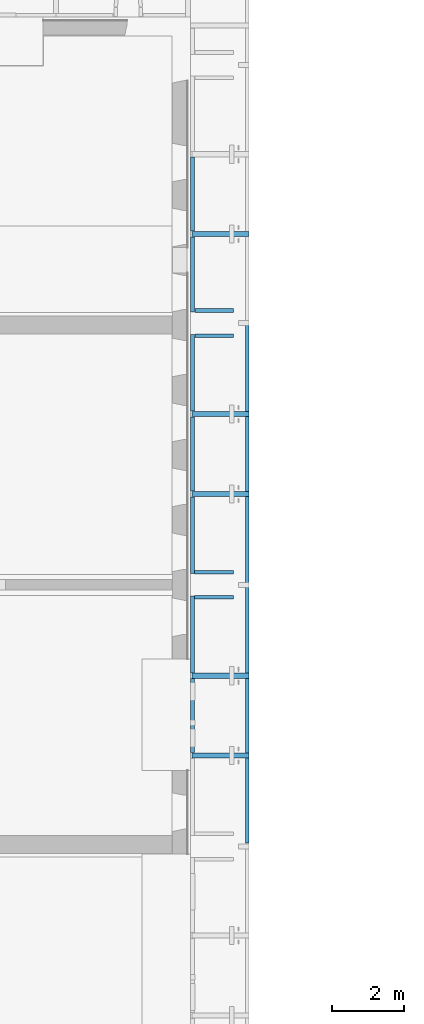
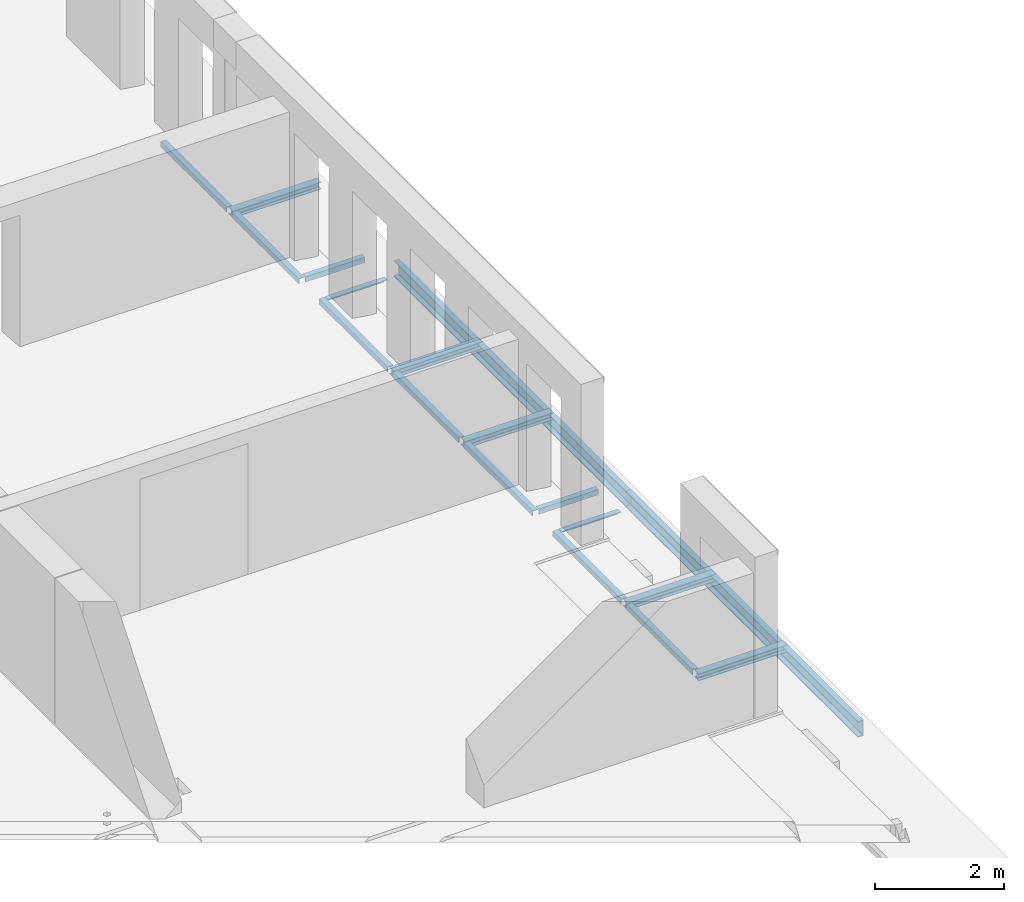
# One storey, part 6 of 27: 18 beams.
"""IFC2X3 building model written with IfcOpenShell, lengths in millimetres."""

import ifcopenshell
import ifcopenshell.guid

model = None  # the IFC model being written
_history = None  # IfcOwnerHistory: only IFC2X3 demands one
_inside = {}  # id of a spatial element -> (the spatial element, [elements in it])
_under = {}  # id of a project, library or spatial element -> (it, [spatial elements below it])
_declared = {}  # id of a project -> (the project, [libraries it declares])
_typed = {}  # id of a type object -> (the type object, [elements of that type])
_made_of = {}  # id of a material, layer set ... -> (it, [elements and type objects made of it])


def new_model(schema):
    """Start an empty IFC model of exactly this schema.

    Asked for "IFC4X3", IfcOpenShell would pick the latest addendum, in which some entities
    have other attributes; the version numbers below select the first issue.
    IFC2X3 requires an IfcOwnerHistory on every rooted entity: one is made here for all.
    """
    global model, _history
    if schema == "IFC4X3":
        model = ifcopenshell.file(schema_version=(4, 3, 0, 0))
    else:
        model = ifcopenshell.file(schema=schema)
    _inside.clear()
    _under.clear()
    _declared.clear()
    _typed.clear()
    _made_of.clear()
    _history = None
    if model.schema == "IFC2X3":
        org = make("IfcOrganization", Name="unknown")
        user = make(
            "IfcPersonAndOrganization",
            ThePerson=make("IfcPerson", FamilyName="unknown"),
            TheOrganization=org,
        )
        app = make(
            "IfcApplication",
            ApplicationDeveloper=org,
            Version="unknown",
            ApplicationFullName="unknown",
            ApplicationIdentifier="unknown",
        )
        _history = make(
            "IfcOwnerHistory",
            OwningUser=user,
            OwningApplication=app,
            ChangeAction="ADDED",
            CreationDate=0,
        )
    return model


def make(cls, **values):
    """One entity of the class cls with the attributes given. An attribute that is None is left unset."""
    return model.create_entity(
        cls, **{name: value for name, value in values.items() if value is not None}
    )


def entity(cls, *values):
    """Any entity or typed value of the class cls, its attributes in the order of the schema. None: left unset."""
    e = model.create_entity(cls)
    for i, value in enumerate(values):
        if value is not None:
            e[i] = value
    return e


def rooted(cls, **values):
    """An entity with a GlobalId (a new one), such as an element, a storey or a relation."""
    return make(cls, GlobalId=ifcopenshell.guid.new(), OwnerHistory=_history, **values)


def si_unit(unit_type, name, prefix=None):
    """IfcSIUnit, for example si_unit("LENGTHUNIT", "METRE", prefix="MILLI")."""
    return make("IfcSIUnit", UnitType=unit_type, Prefix=prefix, Name=name)


def converted_unit(unit_type, name, factor, base, dimensions=None, offset=None):
    """IfcConversionBasedUnit, such as the inch: factor (a typed value) times the base unit."""
    return make(
        "IfcConversionBasedUnit"
        if offset is None
        else "IfcConversionBasedUnitWithOffset",
        ConversionOffset=offset,
        Dimensions=None
        if dimensions is None
        else entity("IfcDimensionalExponents", *dimensions),
        UnitType=unit_type,
        Name=name,
        ConversionFactor=make(
            "IfcMeasureWithUnit", ValueComponent=factor, UnitComponent=base
        ),
    )


def derived_unit(unit_type, elements):
    """IfcDerivedUnit: a product of units, each with its exponent."""
    return make(
        "IfcDerivedUnit",
        Elements=[
            make("IfcDerivedUnitElement", Unit=unit, Exponent=power)
            for unit, power in elements
        ],
        UnitType=unit_type,
    )


def assignment(units):
    """IfcUnitAssignment: the units of a project."""
    return None if units is None else make("IfcUnitAssignment", Units=units)


def point(xyz):
    """IfcCartesianPoint."""
    return None if xyz is None else make("IfcCartesianPoint", Coordinates=xyz)


def direction(xyz):
    """IfcDirection."""
    return None if xyz is None else make("IfcDirection", DirectionRatios=xyz)


def frame(location, z_axis=None, x_axis=None):
    """IfcAxis2Placement3D, a coordinate frame: its origin and axes. An axis left out is left unset."""
    return make(
        "IfcAxis2Placement3D",
        Location=point(location),
        Axis=direction(z_axis),
        RefDirection=direction(x_axis),
    )


def frame_2d(location, x_axis=None):
    """IfcAxis2Placement2D, a coordinate frame in the plane: its origin and x axis."""
    return make(
        "IfcAxis2Placement2D", Location=point(location), RefDirection=direction(x_axis)
    )


def origin():
    """The frame at (0, 0, 0) with its axes left unset."""
    return frame((0.0, 0.0, 0.0))


def place(relative_to, where):
    """IfcLocalPlacement: puts the frame where relative to a parent placement (None: the world)."""
    return make(
        "IfcLocalPlacement", PlacementRelTo=relative_to, RelativePlacement=where
    )


def context(
    kind, dimensions, precision=None, world=None, true_north=None, identifier=None
):
    """IfcGeometricRepresentationContext, for example the 3D "Model" context."""
    return make(
        "IfcGeometricRepresentationContext",
        ContextIdentifier=identifier,
        ContextType=kind,
        CoordinateSpaceDimension=dimensions,
        Precision=precision,
        WorldCoordinateSystem=world,
        TrueNorth=true_north,
    )


def subcontext(parent, identifier, kind, view, scale=None):
    """IfcGeometricRepresentationSubContext, for example "Body" below "Model"."""
    return make(
        "IfcGeometricRepresentationSubContext",
        ContextIdentifier=identifier,
        ContextType=kind,
        ParentContext=parent,
        TargetScale=scale,
        TargetView=view,
    )


def project(units=None, contexts=None):
    """IfcProject with its units and contexts."""
    return rooted(
        "IfcProject",
        Name="project",
        RepresentationContexts=contexts,
        UnitsInContext=assignment(units),
    )


def spatial(cls, under=None, at=None, **own):
    """A site, building, storey or space (cls), placed at a placement, below another one or the project."""
    s = rooted(cls, ObjectPlacement=at, **own)
    if under is not None:
        _under.setdefault(under.id(), (under, []))[1].append(s)
    return s


def polyline(points):
    """IfcPolyline through the points."""
    return make("IfcPolyline", Points=[point(p) for p in points])


def circle_curve(where, radius):
    """IfcCircle in the frame where."""
    return make("IfcCircle", Position=where, Radius=radius)


def parameter(value):
    """IfcParameterValue: where a trimmed curve begins or ends, as a parameter of its basis curve."""
    return model.create_entity("IfcParameterValue", value)


def trimmed(basis, trim1, trim2, sense, master):
    """IfcTrimmedCurve: the piece of a basis curve between two trims."""
    return make(
        "IfcTrimmedCurve",
        BasisCurve=basis,
        Trim1=trim1,
        Trim2=trim2,
        SenseAgreement=sense,
        MasterRepresentation=master,
    )


def segment(curve, same_sense, transition):
    """IfcCompositeCurveSegment."""
    return make(
        "IfcCompositeCurveSegment",
        Transition=transition,
        SameSense=same_sense,
        ParentCurve=curve,
    )


def composite_curve(segments, self_intersect=None):
    """IfcCompositeCurve: segments joined end to end."""
    return make("IfcCompositeCurve", Segments=segments, SelfIntersect=self_intersect)


def profile(cls, at=None, kind="AREA", **sizes):
    """A parametric profile (cls). Its sizes go by their IFC names, for example OverallWidth=200.0."""
    return make(cls, ProfileType=kind, Position=at, **sizes)


def i_section(**sizes):
    """IfcIShapeProfileDef."""
    return profile("IfcIShapeProfileDef", **sizes)


def outline(outer, holes=None, kind="AREA"):
    """IfcArbitraryClosedProfileDef: a profile drawn as a closed curve; with holes, ...WithVoids."""
    if holes is None:
        return make("IfcArbitraryClosedProfileDef", ProfileType=kind, OuterCurve=outer)
    return make(
        "IfcArbitraryProfileDefWithVoids",
        ProfileType=kind,
        OuterCurve=outer,
        InnerCurves=holes,
    )


def extrude(swept, where, along, depth):
    """IfcExtrudedAreaSolid: the profile swept, set in the frame where, extruded along a direction by depth."""
    return make(
        "IfcExtrudedAreaSolid",
        SweptArea=swept,
        Position=where,
        ExtrudedDirection=direction(along),
        Depth=depth,
    )


def shape(context_of_items, identifier, shape_type, items):
    """IfcShapeRepresentation: the items that make up one representation, for example the "Body"."""
    return make(
        "IfcShapeRepresentation",
        ContextOfItems=context_of_items,
        RepresentationIdentifier=identifier,
        RepresentationType=shape_type,
        Items=items,
    )


def material(Name=None, Category=None):
    """IfcMaterial."""
    return make("IfcMaterial", Name=Name, Category=Category)


def made_of(thing, what):
    """Note that an element or type object is made of a material, layer set ...; save() writes the relation."""
    if what is not None:
        _made_of.setdefault(what.id(), (what, []))[1].append(thing)
    return thing


def type_object(cls, material=None, **own):
    """A type object (cls), such as IfcWallType, which elements share."""
    return made_of(rooted(cls, **own), material)


def element(
    cls,
    number,
    at=None,
    inside=None,
    cuts=None,
    type_object=None,
    material=None,
    context=None,
    identifier="Body",
    shape_type=None,
    held_by="IfcProductDefinitionShape",
    body=None,
    shapes=None,
    **own,
):
    """One element of the class cls, such as IfcWall. Its Tag is "e" and its number.

    at: its placement. inside: the storey or other place that contains it. cuts: it is an
    opening in that element (IfcRelVoidsElement). A single representation is given by context,
    identifier, shape_type and body (its items); several are given by shapes. held_by: the class
    of the entity that holds the representations. save() writes the other relations.
    """
    e = rooted(cls, Tag="e%d" % number, ObjectPlacement=at, **own)
    if body is not None:
        shapes = [shape(context, identifier, shape_type, body)]
    if shapes is not None:
        e.Representation = make(held_by, Representations=shapes)
    if inside is not None:
        _inside.setdefault(inside.id(), (inside, []))[1].append(e)
    if cuts is not None:
        rooted(
            "IfcRelVoidsElement", RelatingBuildingElement=cuts, RelatedOpeningElement=e
        )
    if type_object is not None:
        _typed.setdefault(type_object.id(), (type_object, []))[1].append(e)
    return made_of(e, material)


def aggregate(whole, parts):
    """IfcRelAggregates: a whole, such as a stair, and the parts it consists of."""
    return rooted("IfcRelAggregates", RelatingObject=whole, RelatedObjects=parts)


def save(model, path):
    """Write the relations noted so far, then the file.

    IfcRelAggregates (storeys below a building ...), IfcRelContainedInSpatialStructure (elements
    in a storey), IfcRelDefinesByType, IfcRelAssociatesMaterial and IfcRelDeclares: one each for
    every whole, place, type object, material and project.
    """
    for whole, parts in _under.values():
        aggregate(whole, parts)
    for where, things in _inside.values():
        rooted(
            "IfcRelContainedInSpatialStructure",
            RelatedElements=things,
            RelatingStructure=where,
        )
    for kind, things in _typed.values():
        rooted("IfcRelDefinesByType", RelatedObjects=things, RelatingType=kind)
    for what, things in _made_of.values():
        rooted("IfcRelAssociatesMaterial", RelatedObjects=things, RelatingMaterial=what)
    for by, libraries in _declared.values():
        rooted("IfcRelDeclares", RelatingContext=by, RelatedDefinitions=libraries)
    model.write(path)


model = new_model("IFC2X3")

# Units and contexts
model_context = context("Model", 3, precision=0.01, world=origin(), true_north=direction((6.12303176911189e-17, 1.0)))
body_context = subcontext(model_context, "Body", "Model", "MODEL_VIEW")
ifc_project = project(units=[si_unit("LENGTHUNIT", "METRE", prefix="MILLI"), si_unit("AREAUNIT", "SQUARE_METRE"), si_unit("VOLUMEUNIT", "CUBIC_METRE"), converted_unit("PLANEANGLEUNIT", "DEGREE", entity("IfcRatioMeasure", 0.0174532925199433), si_unit("PLANEANGLEUNIT", "RADIAN"), dimensions=[0, 0, 0, 0, 0, 0, 0]), si_unit("MASSUNIT", "GRAM", prefix="KILO"), derived_unit("MASSDENSITYUNIT", [(si_unit("MASSUNIT", "GRAM", prefix="KILO"), 1), (si_unit("LENGTHUNIT", "METRE"), -3)]), si_unit("TIMEUNIT", "SECOND"), si_unit("FREQUENCYUNIT", "HERTZ"), si_unit("THERMODYNAMICTEMPERATUREUNIT", "DEGREE_CELSIUS"), derived_unit("THERMALTRANSMITTANCEUNIT", [(si_unit("MASSUNIT", "GRAM", prefix="KILO"), 1), (si_unit("THERMODYNAMICTEMPERATUREUNIT", "KELVIN"), -1), (si_unit("TIMEUNIT", "SECOND"), -3)]), derived_unit("VOLUMETRICFLOWRATEUNIT", [(si_unit("LENGTHUNIT", "METRE"), 3), (si_unit("TIMEUNIT", "SECOND"), -1)]), si_unit("ELECTRICCURRENTUNIT", "AMPERE"), si_unit("ELECTRICVOLTAGEUNIT", "VOLT"), si_unit("POWERUNIT", "WATT"), si_unit("FORCEUNIT", "NEWTON", prefix="KILO"), si_unit("ILLUMINANCEUNIT", "LUX"), si_unit("LUMINOUSFLUXUNIT", "LUMEN"), si_unit("LUMINOUSINTENSITYUNIT", "CANDELA"), derived_unit("USERDEFINED", [(si_unit("MASSUNIT", "GRAM", prefix="KILO"), -1), (si_unit("LENGTHUNIT", "METRE"), -2), (si_unit("TIMEUNIT", "SECOND"), 3), (si_unit("LUMINOUSFLUXUNIT", "LUMEN"), 1)]), derived_unit("LINEARVELOCITYUNIT", [(si_unit("LENGTHUNIT", "METRE"), 1), (si_unit("TIMEUNIT", "SECOND"), -1)]), si_unit("PRESSUREUNIT", "PASCAL"), derived_unit("USERDEFINED", [(si_unit("LENGTHUNIT", "METRE"), -2), (si_unit("MASSUNIT", "GRAM", prefix="KILO"), 1), (si_unit("TIMEUNIT", "SECOND"), -2)])], contexts=[model_context])

# Site, building, storey
site_placement = place(None, origin())
site = spatial("IfcSite", under=ifc_project, at=site_placement, Name="Default", CompositionType="ELEMENT")
building_placement = place(site_placement, origin())
building = spatial("IfcBuilding", under=site, at=building_placement, Name="niet gebruiken", CompositionType="ELEMENT")
storey_placement = place(building_placement, frame((0.0, 0.0, 18000.0)))
storey = spatial("IfcBuildingStorey", under=building, at=storey_placement, Name="05 vijfde verdieping", CompositionType="ELEMENT", Elevation=18000.0)

# Beams
ifc_material = material(Name="NLRS_h2_staal")
beam_type_1 = type_object("IfcBeamType", Name="NLRS_28.11_SF_WPB_stalen ligger HEA_gen:ligger HEA 140", PredefinedType="BEAM")
beam_1_placement = place(storey_placement, frame((157510.0, 22230.0, -1015.0)))
element("IfcBeam", 1, at=beam_1_placement, inside=storey, type_object=beam_type_1, material=ifc_material, Name="NLRS_28.11_SF_WPB_stalen ligger HEA_gen:ligger HEA 140", ObjectType="NLRS_28.11_SF_WPB_stalen ligger HEA_gen:ligger HEA 140", context=body_context, shape_type="SweptSolid", body=[
    extrude(i_section(OverallWidth=140.000000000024, OverallDepth=133.000000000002, WebThickness=5.49999999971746, FlangeThickness=8.50000000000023, FilletRadius=12.0000000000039, at=frame_2d((-3.25428572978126e-12, 0.0), x_axis=(0.0, 1.0))), frame((0.0, 0.0, -66.5000000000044), z_axis=(1.0, 0.0, 0.0), x_axis=(0.0, 0.0, -1.0)), (0.0, 0.0, 1.0), 1579.73984361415),
])
beam_2_placement = place(storey_placement, frame((157510.0, 20020.0, -1015.0)))
element("IfcBeam", 2, at=beam_2_placement, inside=storey, type_object=beam_type_1, material=ifc_material, Name="NLRS_28.11_SF_WPB_stalen ligger HEA_gen:ligger HEA 140", ObjectType="NLRS_28.11_SF_WPB_stalen ligger HEA_gen:ligger HEA 140", context=body_context, shape_type="SweptSolid", body=[
    extrude(i_section(OverallWidth=140.000000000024, OverallDepth=133.000000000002, WebThickness=5.49999999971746, FlangeThickness=8.50000000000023, FilletRadius=12.0000000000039, at=frame_2d((-3.25428572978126e-12, 0.0), x_axis=(0.0, 1.0))), frame((0.0, 0.0, -66.5000000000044), z_axis=(1.0, 0.0, 0.0), x_axis=(0.0, 0.0, -1.0)), (0.0, 0.0, 1.0), 1579.99999999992),
])
beam_3_placement = place(storey_placement, frame((157510.0, 14980.0, -1015.0)))
element("IfcBeam", 3, at=beam_3_placement, inside=storey, type_object=beam_type_1, material=ifc_material, Name="NLRS_28.11_SF_WPB_stalen ligger HEA_gen:ligger HEA 140", ObjectType="NLRS_28.11_SF_WPB_stalen ligger HEA_gen:ligger HEA 140", context=body_context, shape_type="SweptSolid", body=[
    extrude(i_section(OverallWidth=140.000000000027, OverallDepth=133.000000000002, WebThickness=5.49999999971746, FlangeThickness=8.50000000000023, FilletRadius=11.9999999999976, at=frame_2d((-3.25428572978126e-12, 0.0), x_axis=(0.0, 1.0))), frame((0.0, 0.0, -66.5000000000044), z_axis=(1.0, 0.0, 0.0), x_axis=(0.0, 0.0, -1.0)), (0.0, 0.0, 1.0), 1579.73984361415),
])
beam_4_placement = place(storey_placement, frame((157510.0, 12770.0, -1015.0)))
element("IfcBeam", 4, at=beam_4_placement, inside=storey, type_object=beam_type_1, material=ifc_material, Name="NLRS_28.11_SF_WPB_stalen ligger HEA_gen:ligger HEA 140", ObjectType="NLRS_28.11_SF_WPB_stalen ligger HEA_gen:ligger HEA 140", context=body_context, shape_type="SweptSolid", body=[
    extrude(i_section(OverallWidth=140.000000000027, OverallDepth=133.000000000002, WebThickness=5.49999999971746, FlangeThickness=8.50000000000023, FilletRadius=11.9999999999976, at=frame_2d((-3.25428572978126e-12, 0.0), x_axis=(0.0, 1.0))), frame((0.0, 0.0, -66.5000000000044), z_axis=(1.0, 0.0, 0.0), x_axis=(0.0, 0.0, -1.0)), (0.0, 0.0, 1.0), 1579.99999999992),
])
beam_5_placement = place(storey_placement, frame((157510.0, 27220.0, -1015.0)))
element("IfcBeam", 5, at=beam_5_placement, inside=storey, type_object=beam_type_1, material=ifc_material, Name="NLRS_28.11_SF_WPB_stalen ligger HEA_gen:ligger HEA 140", ObjectType="NLRS_28.11_SF_WPB_stalen ligger HEA_gen:ligger HEA 140", context=body_context, shape_type="SweptSolid", body=[
    extrude(i_section(OverallWidth=140.000000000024, OverallDepth=133.000000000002, WebThickness=5.49999999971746, FlangeThickness=8.50000000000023, FilletRadius=12.0000000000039, at=frame_2d((-3.25428572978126e-12, 0.0), x_axis=(0.0, 1.0))), frame((0.0, 0.0, -66.5000000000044), z_axis=(1.0, 0.0, 0.0), x_axis=(0.0, 0.0, -1.0)), (0.0, 0.0, 1.0), 1579.99999999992),
])
beam_type_2 = type_object("IfcBeamType", Name="NLRS_28.11_SF_WPB_stalen ligger UNP_gen:ligger UNP 300", PredefinedType="BEAM")
beam_6_placement = place(storey_placement, frame((159073.0, 17550.0, -1015.0), z_axis=(0.0, 0.0, 1.0), x_axis=(0.0, 1.0, 0.0)))
element("IfcBeam", 6, at=beam_6_placement, inside=storey, type_object=beam_type_2, material=ifc_material, Name="NLRS_28.11_SF_WPB_stalen ligger UNP_gen:ligger UNP 300", ObjectType="NLRS_28.11_SF_WPB_stalen ligger UNP_gen:ligger UNP 300", context=body_context, shape_type="SweptSolid", body=[
    extrude(outline(composite_curve([segment(polyline([(-150.062397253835, -54.6666666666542), (149.937602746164, -54.6666666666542)]), True, "CONTINUOUS"), segment(polyline([(149.937602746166, -54.6666666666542), (149.937602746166, 45.333333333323)]), True, "CONTINUOUS"), segment(polyline([(149.937602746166, 45.3333333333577), (142.655201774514, 45.3333333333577)]), True, "CONTINUOUS"), segment(trimmed(circle_curve(frame_2d((142.655201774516, 37.3333333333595), x_axis=(0.0, 1.0)), 8.00000000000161), [parameter(0.0)], [parameter(89.9999999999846)], True, "PARAMETER"), True, "CONTINUOUS"), segment(polyline([(134.655201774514, 37.3333333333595), (130.390412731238, -28.6666666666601)]), True, "CONTINUOUS"), segment(trimmed(circle_curve(frame_2d((114.390412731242, -28.6666666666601), x_axis=(1.0, 0.0)), 15.9999999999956), [parameter(269.999999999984)], [parameter(0.0)], True, "PARAMETER"), False, "CONTINUOUS"), segment(polyline([(114.39041273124, -44.6666666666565), (-113.87586063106, -44.6666666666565)]), True, "CONTINUOUS"), segment(trimmed(circle_curve(frame_2d((-113.875860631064, -28.6666666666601), x_axis=(0.0, -1.0)), 15.9999999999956), [parameter(269.999999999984)], [parameter(0.0)], True, "PARAMETER"), False, "CONTINUOUS"), segment(polyline([(-129.875860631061, -28.6666666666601), (-135.044959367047, 37.3333333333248)]), True, "CONTINUOUS"), segment(trimmed(circle_curve(frame_2d((-143.04495936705, 37.3333333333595), x_axis=(1.0, 0.0)), 8.00000000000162), [parameter(0.0)], [parameter(89.9999999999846)], True, "PARAMETER"), True, "CONTINUOUS"), segment(polyline([(-143.044959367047, 45.3333333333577), (-150.062397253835, 45.3333333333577)]), True, "CONTINUOUS"), segment(polyline([(-150.062397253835, 45.3333333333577), (-150.062397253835, -54.6666666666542)]), True, "CONTINUOUS")], self_intersect=False)), frame((0.0, 27.6666666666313, -150.062397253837), z_axis=(1.0, 0.0, 0.0), x_axis=(0.0, 0.0, -1.0)), (0.0, 0.0, 1.0), 7200.00000000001),
])
beam_7_placement = place(storey_placement, frame((159073.0, 10350.0, -1015.0), z_axis=(0.0, 0.0, 1.0), x_axis=(0.0, 1.0, 0.0)))
element("IfcBeam", 7, at=beam_7_placement, inside=storey, type_object=beam_type_2, material=ifc_material, Name="NLRS_28.11_SF_WPB_stalen ligger UNP_gen:ligger UNP 300", ObjectType="NLRS_28.11_SF_WPB_stalen ligger UNP_gen:ligger UNP 300", context=body_context, shape_type="SweptSolid", body=[
    extrude(outline(composite_curve([segment(polyline([(-150.062397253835, -54.6666666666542), (149.937602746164, -54.6666666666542)]), True, "CONTINUOUS"), segment(polyline([(149.937602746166, -54.6666666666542), (149.937602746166, 45.333333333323)]), True, "CONTINUOUS"), segment(polyline([(149.937602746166, 45.3333333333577), (142.655201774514, 45.3333333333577)]), True, "CONTINUOUS"), segment(trimmed(circle_curve(frame_2d((142.655201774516, 37.3333333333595), x_axis=(0.0, 1.0)), 8.00000000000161), [parameter(0.0)], [parameter(89.9999999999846)], True, "PARAMETER"), True, "CONTINUOUS"), segment(polyline([(134.655201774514, 37.3333333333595), (130.390412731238, -28.6666666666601)]), True, "CONTINUOUS"), segment(trimmed(circle_curve(frame_2d((114.390412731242, -28.6666666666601), x_axis=(1.0, 0.0)), 15.9999999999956), [parameter(269.999999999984)], [parameter(0.0)], True, "PARAMETER"), False, "CONTINUOUS"), segment(polyline([(114.39041273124, -44.6666666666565), (-113.87586063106, -44.6666666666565)]), True, "CONTINUOUS"), segment(trimmed(circle_curve(frame_2d((-113.875860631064, -28.6666666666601), x_axis=(0.0, -1.0)), 15.9999999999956), [parameter(269.999999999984)], [parameter(0.0)], True, "PARAMETER"), False, "CONTINUOUS"), segment(polyline([(-129.875860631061, -28.6666666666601), (-135.044959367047, 37.3333333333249)]), True, "CONTINUOUS"), segment(trimmed(circle_curve(frame_2d((-143.04495936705, 37.3333333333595), x_axis=(1.0, 0.0)), 8.00000000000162), [parameter(0.0)], [parameter(89.9999999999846)], True, "PARAMETER"), True, "CONTINUOUS"), segment(polyline([(-143.044959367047, 45.3333333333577), (-150.062397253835, 45.3333333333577)]), True, "CONTINUOUS"), segment(polyline([(-150.062397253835, 45.3333333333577), (-150.062397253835, -54.6666666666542)]), True, "CONTINUOUS")], self_intersect=False)), frame((0.0, 27.6666666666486, -150.062397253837), z_axis=(1.0, 0.0, 0.0), x_axis=(0.0, 0.0, -1.0)), (0.0, 0.0, 1.0), 7200.00000000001),
])
beam_type_3 = type_object("IfcBeamType", Name="NLRS_28.11_SF_WPB_stalen ligger hoekprofiel gelijkzijdig_gen:ligger gelijzijdig hoekprofiel LEQU_100x100x10", PredefinedType="BEAM")
beam_8_placement = place(storey_placement, frame((157480.0, 17790.0, -1015.0), z_axis=(0.0, 0.0, 1.0), x_axis=(0.0, 1.0, 0.0)))
element("IfcBeam", 8, at=beam_8_placement, inside=storey, type_object=beam_type_3, material=ifc_material, Name="NLRS_28.11_SF_WPB_stalen ligger hoekprofiel gelijkzijdig_gen:ligger gelijzijdig hoekprofiel LEQU_100x100x10", ObjectType="NLRS_28.11_SF_WPB_stalen ligger hoekprofiel gelijkzijdig_gen:ligger gelijzijdig hoekprofiel LEQU_100x100x10", context=body_context, shape_type="SweptSolid", body=[
    extrude(outline(composite_curve([segment(polyline([(-37.7777777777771, -62.2222222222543), (-33.7777777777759, -62.2222222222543)]), True, "CONTINUOUS"), segment(trimmed(circle_curve(frame_2d((-33.7777777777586, -56.2222222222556), x_axis=(0.0, -1.0)), 5.9999999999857), [parameter(0.0)], [parameter(90.0000000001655)], True, "PARAMETER"), True, "CONTINUOUS"), segment(polyline([(-27.7777777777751, -56.2222222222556), (-27.7777777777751, 15.777777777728)]), True, "CONTINUOUS"), segment(trimmed(circle_curve(frame_2d((-15.7777777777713, 15.7777777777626), x_axis=(-1.0, 0.0)), 12.000000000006), [parameter(270.000000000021)], [parameter(0.0)], True, "PARAMETER"), False, "CONTINUOUS"), segment(polyline([(-15.7777777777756, 27.7777777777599), (56.2222222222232, 27.7777777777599)]), True, "CONTINUOUS"), segment(trimmed(circle_curve(frame_2d((56.2222222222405, 33.7777777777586), x_axis=(0.0, -1.0)), 5.9999999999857), [parameter(0.0)], [parameter(90.0000000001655)], True, "PARAMETER"), True, "CONTINUOUS"), segment(polyline([(62.222222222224, 33.7777777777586), (62.222222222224, 37.7777777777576)]), True, "CONTINUOUS"), segment(polyline([(62.222222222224, 37.7777777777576), (-37.7777777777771, 37.7777777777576)]), True, "CONTINUOUS"), segment(polyline([(-37.7777777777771, 37.7777777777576), (-37.7777777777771, -62.2222222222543)]), True, "CONTINUOUS")], self_intersect=False)), frame((20.0, -37.7777777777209, -37.7777777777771), z_axis=(1.0, 0.0, 0.0), x_axis=(0.0, 0.0, -1.0)), (0.0, 0.0, 1.0), 2130.00000000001),
])
beam_9_placement = place(storey_placement, frame((157480.0, 20090.0, -1015.0), z_axis=(0.0, 0.0, 1.0), x_axis=(0.0, 1.0, 0.0)))
element("IfcBeam", 9, at=beam_9_placement, inside=storey, type_object=beam_type_3, material=ifc_material, Name="NLRS_28.11_SF_WPB_stalen ligger hoekprofiel gelijkzijdig_gen:ligger gelijzijdig hoekprofiel LEQU_100x100x10", ObjectType="NLRS_28.11_SF_WPB_stalen ligger hoekprofiel gelijkzijdig_gen:ligger gelijzijdig hoekprofiel LEQU_100x100x10", context=body_context, shape_type="SweptSolid", body=[
    extrude(outline(composite_curve([segment(polyline([(-37.7777777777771, -62.2222222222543), (-33.7777777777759, -62.2222222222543)]), True, "CONTINUOUS"), segment(trimmed(circle_curve(frame_2d((-33.7777777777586, -56.2222222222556), x_axis=(0.0, -1.0)), 5.9999999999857), [parameter(0.0)], [parameter(90.0000000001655)], True, "PARAMETER"), True, "CONTINUOUS"), segment(polyline([(-27.7777777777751, -56.2222222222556), (-27.7777777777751, 15.777777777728)]), True, "CONTINUOUS"), segment(trimmed(circle_curve(frame_2d((-15.7777777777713, 15.7777777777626), x_axis=(-1.0, 0.0)), 12.000000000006), [parameter(270.000000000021)], [parameter(0.0)], True, "PARAMETER"), False, "CONTINUOUS"), segment(polyline([(-15.7777777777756, 27.7777777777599), (56.2222222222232, 27.7777777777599)]), True, "CONTINUOUS"), segment(trimmed(circle_curve(frame_2d((56.2222222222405, 33.7777777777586), x_axis=(0.0, -1.0)), 5.9999999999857), [parameter(0.0)], [parameter(90.0000000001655)], True, "PARAMETER"), True, "CONTINUOUS"), segment(polyline([(62.222222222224, 33.7777777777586), (62.222222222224, 37.7777777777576)]), True, "CONTINUOUS"), segment(polyline([(62.222222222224, 37.7777777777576), (-37.7777777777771, 37.7777777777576)]), True, "CONTINUOUS"), segment(polyline([(-37.7777777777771, 37.7777777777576), (-37.7777777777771, -62.2222222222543)]), True, "CONTINUOUS")], self_intersect=False)), frame((10.0, -37.7777777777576, -37.7777777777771), z_axis=(1.0, 0.0, 0.0), x_axis=(0.0, 0.0, -1.0)), (0.0, 0.0, 1.0), 2050.0),
])
beam_10_placement = place(storey_placement, frame((157480.0, 22300.0, -1015.0), z_axis=(0.0, 0.0, 1.0), x_axis=(0.0, 1.0, 0.0)))
element("IfcBeam", 10, at=beam_10_placement, inside=storey, type_object=beam_type_3, material=ifc_material, Name="NLRS_28.11_SF_WPB_stalen ligger hoekprofiel gelijkzijdig_gen:ligger gelijzijdig hoekprofiel LEQU_100x100x10", ObjectType="NLRS_28.11_SF_WPB_stalen ligger hoekprofiel gelijkzijdig_gen:ligger gelijzijdig hoekprofiel LEQU_100x100x10", context=body_context, shape_type="SweptSolid", body=[
    extrude(outline(composite_curve([segment(polyline([(-37.7777777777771, -62.222222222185), (-33.7777777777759, -62.222222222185)]), True, "CONTINUOUS"), segment(trimmed(circle_curve(frame_2d((-33.7777777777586, -56.2222222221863), x_axis=(0.0, -1.0)), 5.9999999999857), [parameter(0.0)], [parameter(90.0000000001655)], True, "PARAMETER"), True, "CONTINUOUS"), segment(polyline([(-27.7777777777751, -56.2222222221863), (-27.7777777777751, 15.7777777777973)]), True, "CONTINUOUS"), segment(trimmed(circle_curve(frame_2d((-15.7777777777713, 15.7777777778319), x_axis=(-1.0, 0.0)), 12.000000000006), [parameter(270.000000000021)], [parameter(0.0)], True, "PARAMETER"), False, "CONTINUOUS"), segment(polyline([(-15.7777777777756, 27.7777777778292), (56.2222222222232, 27.7777777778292)]), True, "CONTINUOUS"), segment(trimmed(circle_curve(frame_2d((56.2222222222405, 33.7777777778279), x_axis=(0.0, -1.0)), 5.9999999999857), [parameter(0.0)], [parameter(90.0000000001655)], True, "PARAMETER"), True, "CONTINUOUS"), segment(polyline([(62.222222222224, 33.7777777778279), (62.222222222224, 37.7777777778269)]), True, "CONTINUOUS"), segment(polyline([(62.222222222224, 37.7777777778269), (-37.7777777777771, 37.7777777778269)]), True, "CONTINUOUS"), segment(polyline([(-37.7777777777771, 37.7777777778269), (-37.7777777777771, -62.222222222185)]), True, "CONTINUOUS")], self_intersect=False)), frame((10.0, -37.7777777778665, -37.7777777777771), z_axis=(1.0, 0.0, 0.0), x_axis=(0.0, 0.0, -1.0)), (0.0, 0.0, 1.0), 2129.7542352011),
])
beam_11_placement = place(storey_placement, frame((157480.0, 12840.0, -1015.0), z_axis=(0.0, 0.0, 1.0), x_axis=(0.0, 1.0, 0.0)))
element("IfcBeam", 11, at=beam_11_placement, inside=storey, type_object=beam_type_3, material=ifc_material, Name="NLRS_28.11_SF_WPB_stalen ligger hoekprofiel gelijkzijdig_gen:ligger gelijzijdig hoekprofiel LEQU_100x100x10", ObjectType="NLRS_28.11_SF_WPB_stalen ligger hoekprofiel gelijkzijdig_gen:ligger gelijzijdig hoekprofiel LEQU_100x100x10", context=body_context, shape_type="SweptSolid", body=[
    extrude(outline(composite_curve([segment(polyline([(-37.7777777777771, -62.222222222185), (-33.7777777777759, -62.222222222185)]), True, "CONTINUOUS"), segment(trimmed(circle_curve(frame_2d((-33.7777777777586, -56.2222222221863), x_axis=(0.0, -1.0)), 5.9999999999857), [parameter(0.0)], [parameter(90.0000000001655)], True, "PARAMETER"), True, "CONTINUOUS"), segment(polyline([(-27.7777777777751, -56.2222222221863), (-27.7777777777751, 15.7777777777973)]), True, "CONTINUOUS"), segment(trimmed(circle_curve(frame_2d((-15.7777777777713, 15.7777777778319), x_axis=(-1.0, 0.0)), 12.000000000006), [parameter(270.000000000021)], [parameter(0.0)], True, "PARAMETER"), False, "CONTINUOUS"), segment(polyline([(-15.7777777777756, 27.7777777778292), (56.2222222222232, 27.7777777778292)]), True, "CONTINUOUS"), segment(trimmed(circle_curve(frame_2d((56.2222222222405, 33.7777777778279), x_axis=(0.0, -1.0)), 5.9999999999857), [parameter(0.0)], [parameter(90.0000000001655)], True, "PARAMETER"), True, "CONTINUOUS"), segment(polyline([(62.222222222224, 33.7777777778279), (62.222222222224, 37.7777777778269)]), True, "CONTINUOUS"), segment(polyline([(62.222222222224, 37.7777777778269), (-37.7777777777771, 37.7777777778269)]), True, "CONTINUOUS"), segment(polyline([(-37.7777777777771, 37.7777777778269), (-37.7777777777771, -62.222222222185)]), True, "CONTINUOUS")], self_intersect=False)), frame((10.0, -37.7777777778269, -37.7777777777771), z_axis=(1.0, 0.0, 0.0), x_axis=(0.0, 0.0, -1.0)), (0.0, 0.0, 1.0), 2050.0),
])
beam_12_placement = place(storey_placement, frame((157480.0, 15050.0, -1015.0), z_axis=(0.0, 0.0, 1.0), x_axis=(0.0, 1.0, 0.0)))
element("IfcBeam", 12, at=beam_12_placement, inside=storey, type_object=beam_type_3, material=ifc_material, Name="NLRS_28.11_SF_WPB_stalen ligger hoekprofiel gelijkzijdig_gen:ligger gelijzijdig hoekprofiel LEQU_100x100x10", ObjectType="NLRS_28.11_SF_WPB_stalen ligger hoekprofiel gelijkzijdig_gen:ligger gelijzijdig hoekprofiel LEQU_100x100x10", context=body_context, shape_type="SweptSolid", body=[
    extrude(outline(composite_curve([segment(polyline([(-37.7777777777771, -62.2222222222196), (-33.7777777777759, -62.2222222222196)]), True, "CONTINUOUS"), segment(trimmed(circle_curve(frame_2d((-33.7777777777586, -56.222222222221), x_axis=(0.0, -1.0)), 5.9999999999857), [parameter(0.0)], [parameter(90.0000000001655)], True, "PARAMETER"), True, "CONTINUOUS"), segment(polyline([(-27.7777777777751, -56.222222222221), (-27.7777777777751, 15.7777777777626)]), True, "CONTINUOUS"), segment(trimmed(circle_curve(frame_2d((-15.7777777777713, 15.7777777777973), x_axis=(-1.0, 0.0)), 12.000000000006), [parameter(270.000000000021)], [parameter(0.0)], True, "PARAMETER"), False, "CONTINUOUS"), segment(polyline([(-15.7777777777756, 27.7777777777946), (56.2222222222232, 27.7777777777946)]), True, "CONTINUOUS"), segment(trimmed(circle_curve(frame_2d((56.2222222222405, 33.7777777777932), x_axis=(0.0, -1.0)), 5.9999999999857), [parameter(0.0)], [parameter(90.0000000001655)], True, "PARAMETER"), True, "CONTINUOUS"), segment(polyline([(62.222222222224, 33.7777777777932), (62.222222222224, 37.7777777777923)]), True, "CONTINUOUS"), segment(polyline([(62.222222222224, 37.7777777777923), (-37.7777777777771, 37.7777777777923)]), True, "CONTINUOUS"), segment(polyline([(-37.7777777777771, 37.7777777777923), (-37.7777777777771, -62.2222222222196)]), True, "CONTINUOUS")], self_intersect=False)), frame((10.0, -37.7777777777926, -37.7777777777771), z_axis=(1.0, 0.0, 0.0), x_axis=(0.0, 0.0, -1.0)), (0.0, 0.0, 1.0), 2130.00000000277),
])
beam_13_placement = place(storey_placement, frame((157480.0, 24990.0, -1015.0), z_axis=(0.0, 0.0, 1.0), x_axis=(0.0, 1.0, 0.0)))
element("IfcBeam", 13, at=beam_13_placement, inside=storey, type_object=beam_type_3, material=ifc_material, Name="NLRS_28.11_SF_WPB_stalen ligger hoekprofiel gelijkzijdig_gen:ligger gelijzijdig hoekprofiel LEQU_100x100x10", ObjectType="NLRS_28.11_SF_WPB_stalen ligger hoekprofiel gelijkzijdig_gen:ligger gelijzijdig hoekprofiel LEQU_100x100x10", context=body_context, shape_type="SweptSolid", body=[
    extrude(outline(composite_curve([segment(polyline([(-37.7777777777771, -62.2222222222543), (-33.7777777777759, -62.2222222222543)]), True, "CONTINUOUS"), segment(trimmed(circle_curve(frame_2d((-33.7777777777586, -56.2222222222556), x_axis=(0.0, -1.0)), 5.9999999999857), [parameter(0.0)], [parameter(90.0000000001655)], True, "PARAMETER"), True, "CONTINUOUS"), segment(polyline([(-27.7777777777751, -56.2222222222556), (-27.7777777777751, 15.777777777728)]), True, "CONTINUOUS"), segment(trimmed(circle_curve(frame_2d((-15.7777777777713, 15.7777777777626), x_axis=(-1.0, 0.0)), 12.000000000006), [parameter(270.000000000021)], [parameter(0.0)], True, "PARAMETER"), False, "CONTINUOUS"), segment(polyline([(-15.7777777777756, 27.7777777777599), (56.2222222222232, 27.7777777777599)]), True, "CONTINUOUS"), segment(trimmed(circle_curve(frame_2d((56.2222222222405, 33.7777777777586), x_axis=(0.0, -1.0)), 5.9999999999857), [parameter(0.0)], [parameter(90.0000000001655)], True, "PARAMETER"), True, "CONTINUOUS"), segment(polyline([(62.222222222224, 33.7777777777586), (62.222222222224, 37.7777777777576)]), True, "CONTINUOUS"), segment(polyline([(62.222222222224, 37.7777777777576), (-37.7777777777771, 37.7777777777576)]), True, "CONTINUOUS"), segment(polyline([(-37.7777777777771, 37.7777777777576), (-37.7777777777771, -62.2222222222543)]), True, "CONTINUOUS")], self_intersect=False)), frame((70.0, -37.7777777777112, -37.7777777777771), z_axis=(1.0, 0.0, 0.0), x_axis=(0.0, 0.0, -1.0)), (0.0, 0.0, 1.0), 2080.00000000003),
])
beam_14_placement = place(storey_placement, frame((157480.0, 27290.0, -1015.0), z_axis=(0.0, 0.0, 1.0), x_axis=(0.0, 1.0, 0.0)))
element("IfcBeam", 14, at=beam_14_placement, inside=storey, type_object=beam_type_3, material=ifc_material, Name="NLRS_28.11_SF_WPB_stalen ligger hoekprofiel gelijkzijdig_gen:ligger gelijzijdig hoekprofiel LEQU_100x100x10", ObjectType="NLRS_28.11_SF_WPB_stalen ligger hoekprofiel gelijkzijdig_gen:ligger gelijzijdig hoekprofiel LEQU_100x100x10", context=body_context, shape_type="SweptSolid", body=[
    extrude(outline(composite_curve([segment(polyline([(-37.7777777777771, -62.2222222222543), (-33.7777777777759, -62.2222222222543)]), True, "CONTINUOUS"), segment(trimmed(circle_curve(frame_2d((-33.7777777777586, -56.2222222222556), x_axis=(0.0, -1.0)), 5.9999999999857), [parameter(0.0)], [parameter(90.0000000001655)], True, "PARAMETER"), True, "CONTINUOUS"), segment(polyline([(-27.7777777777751, -56.2222222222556), (-27.7777777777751, 15.777777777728)]), True, "CONTINUOUS"), segment(trimmed(circle_curve(frame_2d((-15.7777777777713, 15.7777777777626), x_axis=(-1.0, 0.0)), 12.000000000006), [parameter(270.000000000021)], [parameter(0.0)], True, "PARAMETER"), False, "CONTINUOUS"), segment(polyline([(-15.7777777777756, 27.7777777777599), (56.2222222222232, 27.7777777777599)]), True, "CONTINUOUS"), segment(trimmed(circle_curve(frame_2d((56.2222222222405, 33.7777777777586), x_axis=(0.0, -1.0)), 5.9999999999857), [parameter(0.0)], [parameter(90.0000000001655)], True, "PARAMETER"), True, "CONTINUOUS"), segment(polyline([(62.222222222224, 33.7777777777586), (62.222222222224, 37.7777777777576)]), True, "CONTINUOUS"), segment(polyline([(62.222222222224, 37.7777777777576), (-37.7777777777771, 37.7777777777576)]), True, "CONTINUOUS"), segment(polyline([(-37.7777777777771, 37.7777777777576), (-37.7777777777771, -62.2222222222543)]), True, "CONTINUOUS")], self_intersect=False)), frame((10.0, -37.7777777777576, -37.7777777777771), z_axis=(1.0, 0.0, 0.0), x_axis=(0.0, 0.0, -1.0)), (0.0, 0.0, 1.0), 2050.0),
])
beam_15_placement = place(storey_placement, frame((158680.0, 17800.0, -1015.0), z_axis=(0.0, 0.0, 1.0), x_axis=(-1.0, 0.0, 0.0)))
element("IfcBeam", 15, at=beam_15_placement, inside=storey, type_object=beam_type_3, material=ifc_material, Name="NLRS_28.11_SF_WPB_stalen ligger hoekprofiel gelijkzijdig_gen:ligger gelijzijdig hoekprofiel LEQU_100x100x10", ObjectType="NLRS_28.11_SF_WPB_stalen ligger hoekprofiel gelijkzijdig_gen:ligger gelijzijdig hoekprofiel LEQU_100x100x10", context=body_context, shape_type="SweptSolid", body=[
    extrude(outline(composite_curve([segment(polyline([(-37.7777777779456, -62.2222222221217), (-33.7777777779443, -62.2222222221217)]), True, "CONTINUOUS"), segment(trimmed(circle_curve(frame_2d((-33.7777777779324, -56.2222222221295), x_axis=(0.0, -1.0)), 6.00000000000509), [parameter(0.0)], [parameter(89.9999999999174)], True, "PARAMETER"), True, "CONTINUOUS"), segment(polyline([(-27.7777777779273, -56.2222222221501), (-27.7777777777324, 15.7777777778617)]), True, "CONTINUOUS"), segment(trimmed(circle_curve(frame_2d((-15.7777777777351, 15.7777777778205), x_axis=(-1.0, 0.0)), 11.9999999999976), [parameter(269.999999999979)], [parameter(0.0)], True, "PARAMETER"), False, "CONTINUOUS"), segment(polyline([(-15.7777777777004, 27.7777777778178), (56.2222222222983, 27.7777777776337)]), True, "CONTINUOUS"), segment(trimmed(circle_curve(frame_2d((56.2222222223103, 33.777777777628), x_axis=(0.0, -1.0)), 6.00000000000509), [parameter(0.0)], [parameter(89.9999999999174)], True, "PARAMETER"), True, "CONTINUOUS"), segment(polyline([(62.2222222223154, 33.7777777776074), (62.2222222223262, 37.7777777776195)]), True, "CONTINUOUS"), segment(polyline([(62.2222222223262, 37.7777777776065), (-37.7777777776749, 37.7777777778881)]), True, "CONTINUOUS"), segment(polyline([(-37.7777777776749, 37.7777777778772), (-37.7777777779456, -62.2222222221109)]), True, "CONTINUOUS")], self_intersect=False)), frame((20.0000006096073, -37.7777777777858, -37.7777777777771), z_axis=(1.0, 0.0, 0.0), x_axis=(0.0, 0.0, -1.0)), (0.0, 0.0, 1.0), 1069.03787794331),
])
beam_16_placement = place(storey_placement, frame((157580.154175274, 24449.7542352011, -1015.0)))
element("IfcBeam", 16, at=beam_16_placement, inside=storey, type_object=beam_type_3, material=ifc_material, Name="NLRS_28.11_SF_WPB_stalen ligger hoekprofiel gelijkzijdig_gen:ligger gelijzijdig hoekprofiel LEQU_100x100x10", ObjectType="NLRS_28.11_SF_WPB_stalen ligger hoekprofiel gelijkzijdig_gen:ligger gelijzijdig hoekprofiel LEQU_100x100x10", context=body_context, shape_type="SweptSolid", body=[
    extrude(outline(composite_curve([segment(polyline([(-37.7777777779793, -62.2222222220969), (-33.777777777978, -62.2222222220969)]), True, "CONTINUOUS"), segment(trimmed(circle_curve(frame_2d((-33.7777777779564, -56.2222222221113), x_axis=(0.0, -1.0)), 5.99999999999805), [parameter(0.0)], [parameter(90.0000000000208)], True, "PARAMETER"), True, "CONTINUOUS"), segment(polyline([(-27.7777777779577, -56.2222222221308), (-27.7777777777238, 15.7777777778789)]), True, "CONTINUOUS"), segment(trimmed(circle_curve(frame_2d((-15.7777777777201, 15.7777777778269), x_axis=(-1.0, 0.0)), 12.0000000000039), [parameter(270.000000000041)], [parameter(0.0)], True, "PARAMETER"), False, "CONTINUOUS"), segment(polyline([(-15.7777777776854, 27.7777777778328), (56.2222222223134, 27.7777777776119)]), True, "CONTINUOUS"), segment(trimmed(circle_curve(frame_2d((56.2222222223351, 33.7777777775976), x_axis=(0.0, -1.0)), 5.99999999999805), [parameter(0.0)], [parameter(90.0000000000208)], True, "PARAMETER"), True, "CONTINUOUS"), segment(polyline([(62.2222222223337, 33.7777777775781), (62.2222222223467, 37.7777777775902)]), True, "CONTINUOUS"), segment(polyline([(62.2222222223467, 37.7777777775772), (-37.7777777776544, 37.777777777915)]), True, "CONTINUOUS"), segment(polyline([(-37.7777777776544, 37.777777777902), (-37.7777777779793, -62.2222222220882)]), True, "CONTINUOUS")], self_intersect=False)), frame((12.7000006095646, -37.7777777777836, -37.7777777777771), z_axis=(1.0, 0.0, 0.0), x_axis=(0.0, 0.0, -1.0)), (0.0, 0.0, 1.0), 1067.14582411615),
])
beam_17_placement = place(storey_placement, frame((157580.154175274, 25050.2457647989, -1015.0)))
element("IfcBeam", 17, at=beam_17_placement, inside=storey, type_object=beam_type_3, material=ifc_material, Name="NLRS_28.11_SF_WPB_stalen ligger hoekprofiel gelijkzijdig_gen:ligger gelijzijdig hoekprofiel LEQU_100x100x10", ObjectType="NLRS_28.11_SF_WPB_stalen ligger hoekprofiel gelijkzijdig_gen:ligger gelijzijdig hoekprofiel LEQU_100x100x10", context=body_context, shape_type="SweptSolid", body=[
    extrude(outline(composite_curve([segment(polyline([(-37.7777777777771, -37.777777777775), (62.222222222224, -37.777777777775)]), True, "CONTINUOUS"), segment(polyline([(62.222222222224, -37.777777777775), (62.222222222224, -33.7777777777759)]), True, "CONTINUOUS"), segment(trimmed(circle_curve(frame_2d((56.2222222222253, -33.7777777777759), x_axis=(1.0, 0.0)), 5.99999999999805), [parameter(0.0)], [parameter(90.0000000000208)], True, "PARAMETER"), True, "CONTINUOUS"), segment(polyline([(56.2222222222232, -27.7777777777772), (-15.7777777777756, -27.7777777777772)]), True, "CONTINUOUS"), segment(trimmed(circle_curve(frame_2d((-15.7777777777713, -15.7777777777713), x_axis=(0.0, -1.0)), 12.0000000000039), [parameter(270.000000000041)], [parameter(0.0)], True, "PARAMETER"), False, "CONTINUOUS"), segment(polyline([(-27.7777777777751, -15.7777777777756), (-27.7777777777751, 56.2222222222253)]), True, "CONTINUOUS"), segment(trimmed(circle_curve(frame_2d((-33.7777777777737, 56.2222222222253), x_axis=(1.0, 0.0)), 5.99999999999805), [parameter(0.0)], [parameter(90.0000000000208)], True, "PARAMETER"), True, "CONTINUOUS"), segment(polyline([(-33.7777777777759, 62.222222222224), (-37.7777777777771, 62.222222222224)]), True, "CONTINUOUS"), segment(polyline([(-37.7777777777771, 62.222222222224), (-37.7777777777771, -37.777777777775)]), True, "CONTINUOUS")], self_intersect=False)), frame((12.7000006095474, 37.777777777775, -37.7777777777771), z_axis=(1.0, 0.0, 0.0), x_axis=(0.0, 0.0, -1.0)), (0.0, 0.0, 1.0), 1067.14582411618),
])
beam_18_placement = place(storey_placement, frame((158680.0, 17200.0, -1015.0), z_axis=(0.0, 0.0, 1.0), x_axis=(-1.0, 0.0, 0.0)))
element("IfcBeam", 18, at=beam_18_placement, inside=storey, type_object=beam_type_3, material=ifc_material, Name="NLRS_28.11_SF_WPB_stalen ligger hoekprofiel gelijkzijdig_gen:ligger gelijzijdig hoekprofiel LEQU_100x100x10", ObjectType="NLRS_28.11_SF_WPB_stalen ligger hoekprofiel gelijkzijdig_gen:ligger gelijzijdig hoekprofiel LEQU_100x100x10", context=body_context, shape_type="SweptSolid", body=[
    extrude(outline(composite_curve([segment(polyline([(-37.7777777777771, -37.777777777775), (62.222222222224, -37.777777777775)]), True, "CONTINUOUS"), segment(polyline([(62.222222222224, -37.7777777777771), (62.222222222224, -33.7777777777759)]), True, "CONTINUOUS"), segment(trimmed(circle_curve(frame_2d((56.2222222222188, -33.7777777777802), x_axis=(1.0, 0.0)), 6.00000000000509), [parameter(0.0)], [parameter(89.9999999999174)], True, "PARAMETER"), True, "CONTINUOUS"), segment(polyline([(56.2222222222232, -27.7777777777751), (-15.7777777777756, -27.7777777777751)]), True, "CONTINUOUS"), segment(trimmed(circle_curve(frame_2d((-15.7777777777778, -15.7777777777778), x_axis=(0.0, -1.0)), 11.9999999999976), [parameter(269.999999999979)], [parameter(0.0)], True, "PARAMETER"), False, "CONTINUOUS"), segment(polyline([(-27.7777777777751, -15.7777777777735), (-27.7777777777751, 56.2222222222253)]), True, "CONTINUOUS"), segment(trimmed(circle_curve(frame_2d((-33.7777777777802, 56.222222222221), x_axis=(1.0, 0.0)), 6.00000000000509), [parameter(0.0)], [parameter(89.9999999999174)], True, "PARAMETER"), True, "CONTINUOUS"), segment(polyline([(-33.7777777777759, 62.222222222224), (-37.7777777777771, 62.222222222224)]), True, "CONTINUOUS"), segment(polyline([(-37.7777777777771, 62.2222222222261), (-37.7777777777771, -37.777777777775)]), True, "CONTINUOUS")], self_intersect=False)), frame((20.0000006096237, 37.777777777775, -37.7777777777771), z_axis=(1.0, 0.0, 0.0), x_axis=(0.0, 0.0, -1.0)), (0.0, 0.0, 1.0), 1069.03787794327),
])

save(model, "model.ifc")
